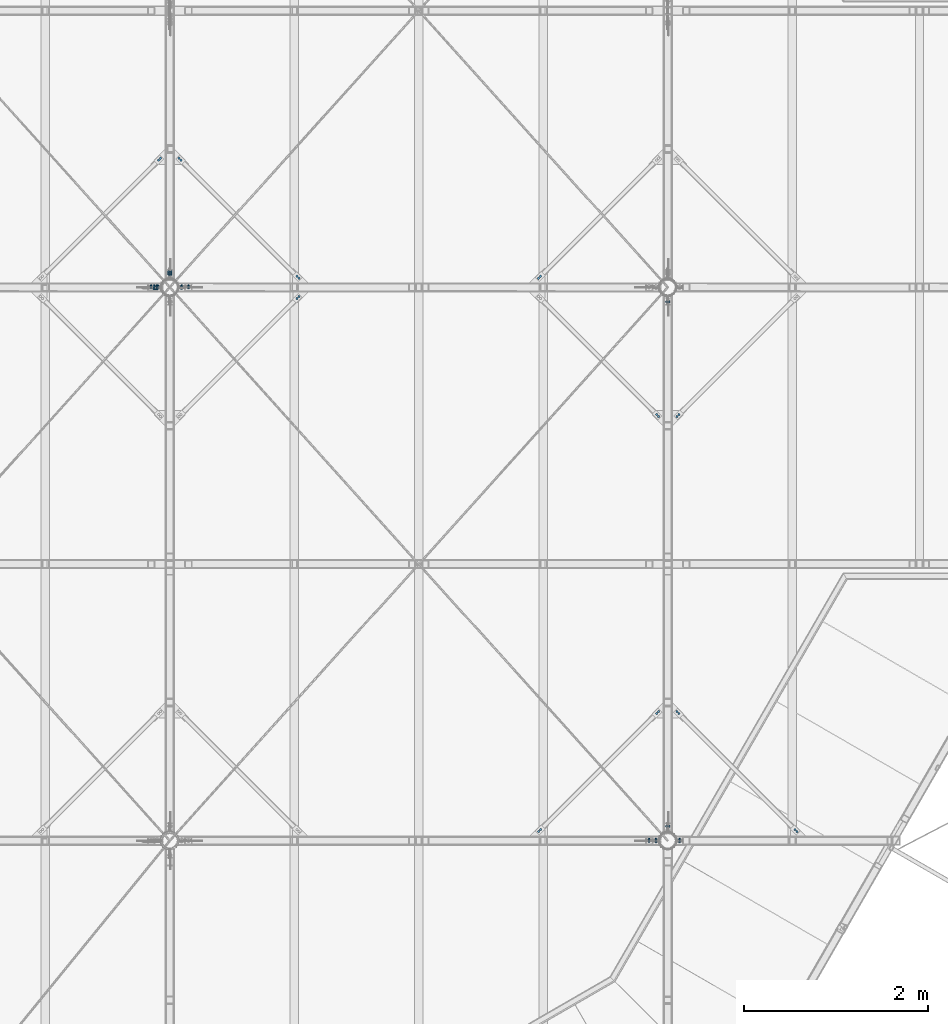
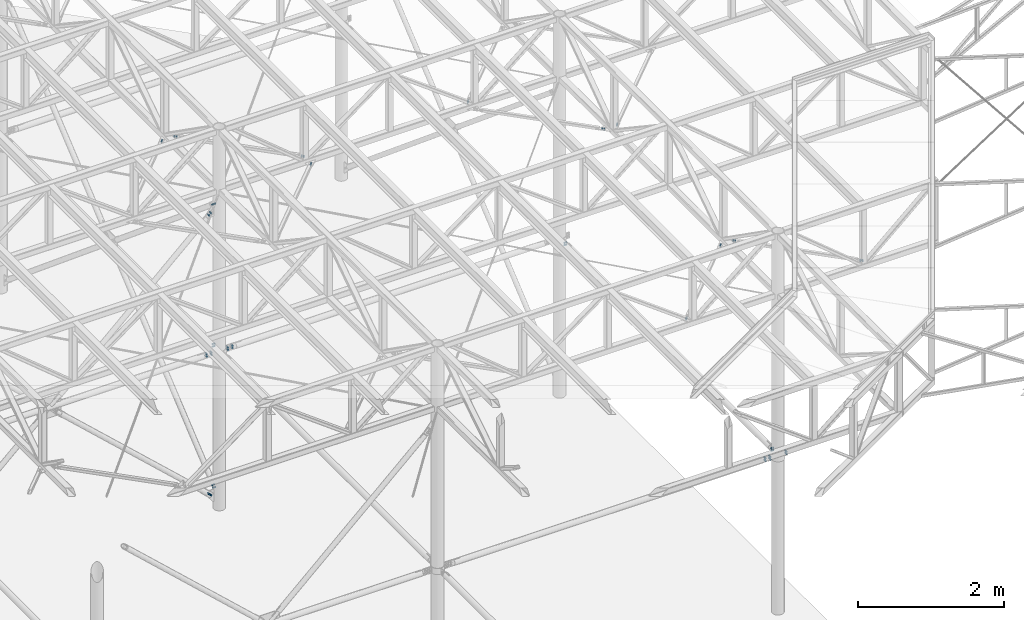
# One storey, part 119 of 132: 30 mechanical fasteners, 21 elements without a shape of their own.
"""IFC2X3 building model written with IfcOpenShell, lengths in millimetres."""

from ifc_helpers import new_model, si_unit, frame, origin_with_axes, origin_2d_with_axis, place, context, subcontext, project, spatial, polyline, circle, outline, extrude, source, transform, mapped, material, type_object, element, aggregate, save


model = new_model("IFC2X3")

# Units and contexts
model_context = context("Model", 3, precision=1e-05, world=origin_with_axes())
body_context = subcontext(model_context, "Body", "Model", "MODEL_VIEW")
ifc_project = project(units=[si_unit("LENGTHUNIT", "METRE", prefix="MILLI"), si_unit("AREAUNIT", "SQUARE_METRE"), si_unit("VOLUMEUNIT", "CUBIC_METRE"), si_unit("MASSUNIT", "GRAM", prefix="KILO"), si_unit("TIMEUNIT", "SECOND"), si_unit("PLANEANGLEUNIT", "RADIAN"), si_unit("SOLIDANGLEUNIT", "STERADIAN"), si_unit("THERMODYNAMICTEMPERATUREUNIT", "DEGREE_CELSIUS"), si_unit("LUMINOUSINTENSITYUNIT", "LUMEN")], contexts=[model_context])

# Site, building, storey
site_placement = place(None, origin_with_axes())
site = spatial("IfcSite", under=ifc_project, at=site_placement, Name="Budowa", CompositionType="ELEMENT")
building_placement = place(site_placement, origin_with_axes())
building = spatial("IfcBuilding", under=site, at=building_placement, Name="Undefined", CompositionType="ELEMENT")
storey_placement = place(building_placement, origin_with_axes())
storey = spatial("IfcBuildingStorey", under=building, at=storey_placement, Name="Undefined", CompositionType="ELEMENT", Elevation=0.0)

# Assembly, mechanical fastener
assembly_1_placement = place(storey_placement, origin_with_axes())
assembly_1 = element("IfcElementAssembly", 1, at=assembly_1_placement, inside=storey, Name="Steel Assembly", AssemblyPlace="NOTDEFINED", PredefinedType="RIGID_FRAME")
ifc_material = material(Name="Undefined")
discrete_accessory_type = type_object("IfcDiscreteAccessoryType", Name="Bolt assembly")
shared_shape_1 = source(origin_with_axes(), body_context, "Body", "SweptSolid", [
    extrude(circle(Radius=9.5, at=origin_2d_with_axis()), frame((0.0, -2.10099750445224, 0.0), z_axis=(0.0, 1.0, 0.0), x_axis=(1.0, 0.0, 0.0)), (0.0, 0.0, 1.0), 8.1),
    extrude(circle(Radius=9.5, at=origin_2d_with_axis()), frame((0.0, -9.9, 0.0), z_axis=(0.0, 1.0, 0.0), x_axis=(1.0, 0.0, 0.0)), (0.0, 0.0, 1.0), 8.0),
    extrude(outline(polyline([(13.85640646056, 0.0), (6.92820323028, 12.0000000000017), (-6.92820323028, 12.0000000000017), (-13.85640646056, 0.0), (-6.92820323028, -12.0000000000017), (6.92820323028, -12.0000000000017), (13.85640646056, 0.0)])), frame((0.0, -23.0, 0.0), z_axis=(0.0, 1.0, 0.0), x_axis=(1.0, 0.0, 0.0)), (0.0, 0.0, 1.0), 10.0),
    extrude(circle(Radius=8.0, at=origin_2d_with_axis()), frame((0.0, -13.0, 0.0), z_axis=(0.0, 1.0, 0.0), x_axis=(1.0, 0.0, 0.0)), (0.0, 0.0, 1.0), 45.0),
    extrude(circle(Radius=15.0, at=origin_2d_with_axis()), frame((0.0, -13.0, 0.0), z_axis=(0.0, 1.0, 0.0), x_axis=(1.0, 0.0, 0.0)), (0.0, 0.0, 1.0), 3.0),
    extrude(circle(Radius=15.0, at=origin_2d_with_axis()), frame((0.0, 5.99900249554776, 0.0), z_axis=(0.0, 1.0, 0.0), x_axis=(1.0, 0.0, 0.0)), (0.0, 0.0, 1.0), 3.0),
    extrude(outline(polyline([(13.85640646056, 0.0), (6.92820323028, 12.0000000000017), (-6.92820323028, 12.0000000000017), (-13.85640646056, 0.0), (-6.92820323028, -12.0000000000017), (6.92820323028, -12.0000000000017), (13.85640646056, 0.0)])), frame((0.0, 8.99900249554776, 0.0), z_axis=(0.0, 1.0, 0.0), x_axis=(1.0, 0.0, 0.0)), (0.0, 0.0, 1.0), 13.0),
])
mechanical_fastener_1_placement = place(assembly_1_placement, frame((14684.3261492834, 11997.9999976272, 12480.2077566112), z_axis=(0.67855182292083, 0.0, -0.734552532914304), x_axis=(-0.734552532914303, 0.0, -0.67855182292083)))
mechanical_fastener_1 = element("IfcMechanicalFastener", 2, at=mechanical_fastener_1_placement, type_object=discrete_accessory_type, material=ifc_material, Name="Bolt assembly", NominalDiameter=16.0, NominalLength=45.0, context=body_context, shape_type="MappedRepresentation", body=[
    mapped(shared_shape_1, transform((0.0, 0.0, 0.0))),
    mapped(shared_shape_1, transform((40.0000000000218, 0.0, -1.81898940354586e-12))),
])

assembly_2_placement = place(storey_placement, origin_with_axes())
assembly_2 = element("IfcElementAssembly", 3, at=assembly_2_placement, inside=storey, Name="Steel Assembly", AssemblyPlace="NOTDEFINED", PredefinedType="RIGID_FRAME")
mechanical_fastener_2_placement = place(assembly_2_placement, frame((14684.3261497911, 11997.9999973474, 7751.7929987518), z_axis=(-0.67855182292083, 0.0, -0.734552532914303), x_axis=(-0.734552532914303, 0.0, 0.67855182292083)))
mechanical_fastener_2 = element("IfcMechanicalFastener", 4, at=mechanical_fastener_2_placement, type_object=discrete_accessory_type, material=ifc_material, Name="Bolt assembly", NominalDiameter=16.0, NominalLength=45.0, context=body_context, shape_type="MappedRepresentation", body=[
    mapped(shared_shape_1, transform((0.0, 0.0, 0.0))),
    mapped(shared_shape_1, transform((40.0000000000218, 0.0, -1.81898940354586e-12))),
])

assembly_3_placement = place(storey_placement, origin_with_axes())
assembly_3 = element("IfcElementAssembly", 5, at=assembly_3_placement, inside=storey, Name="Steel Assembly", AssemblyPlace="NOTDEFINED", PredefinedType="RIGID_FRAME")
shared_shape_2 = source(origin_with_axes(), body_context, "Body", "SweptSolid", [
    extrude(circle(Radius=9.5, at=origin_2d_with_axis()), frame((0.0, -2.1, 0.0), z_axis=(0.0, 1.0, 0.0), x_axis=(1.0, 0.0, 0.0)), (0.0, 0.0, 1.0), 8.1),
    extrude(circle(Radius=9.5, at=origin_2d_with_axis()), frame((0.0, -11.9, 0.0), z_axis=(0.0, 1.0, 0.0), x_axis=(1.0, 0.0, 0.0)), (0.0, 0.0, 1.0), 8.0),
    extrude(outline(polyline([(13.85640646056, 0.0), (6.92820323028, 12.0000000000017), (-6.92820323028, 12.0000000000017), (-13.85640646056, 0.0), (-6.92820323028, -12.0000000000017), (6.92820323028, -12.0000000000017), (13.85640646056, 0.0)])), frame((0.0, -25.0, 0.0), z_axis=(0.0, 1.0, 0.0), x_axis=(1.0, 0.0, 0.0)), (0.0, 0.0, 1.0), 10.0),
    extrude(circle(Radius=8.0, at=origin_2d_with_axis()), frame((0.0, -15.0, 0.0), z_axis=(0.0, 1.0, 0.0), x_axis=(1.0, 0.0, 0.0)), (0.0, 0.0, 1.0), 45.0),
    extrude(circle(Radius=15.0, at=origin_2d_with_axis()), frame((0.0, -15.0, 0.0), z_axis=(0.0, 1.0, 0.0), x_axis=(1.0, 0.0, 0.0)), (0.0, 0.0, 1.0), 3.0),
    extrude(circle(Radius=15.0, at=origin_2d_with_axis()), frame((0.0, 6.0, 0.0), z_axis=(0.0, 1.0, 0.0), x_axis=(1.0, 0.0, 0.0)), (0.0, 0.0, 1.0), 3.0),
    extrude(outline(polyline([(13.85640646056, 0.0), (6.92820323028, 12.0000000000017), (-6.92820323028, 12.0000000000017), (-13.85640646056, 0.0), (-6.92820323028, -12.0000000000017), (6.92820323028, -12.0000000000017), (13.85640646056, 0.0)])), frame((0.0, 9.0, 0.0), z_axis=(0.0, 1.0, 0.0), x_axis=(1.0, 0.0, 0.0)), (0.0, 0.0, 1.0), 13.0),
])
mechanical_fastener_3_placement = place(assembly_3_placement, frame((14684.3261492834, 11997.9999976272, 12480.2077566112), z_axis=(0.67855182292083, 0.0, -0.734552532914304), x_axis=(-0.734552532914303, 0.0, -0.67855182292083)))
mechanical_fastener_3 = element("IfcMechanicalFastener", 6, at=mechanical_fastener_3_placement, type_object=discrete_accessory_type, material=ifc_material, Name="Bolt assembly", NominalDiameter=16.0, NominalLength=45.0, context=body_context, shape_type="MappedRepresentation", body=[
    mapped(shared_shape_2, transform((0.0, 0.0, 0.0))),
    mapped(shared_shape_2, transform((40.0000000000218, 0.0, -1.81898940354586e-12))),
])
aggregate(assembly_3, [mechanical_fastener_3])

assembly_4_placement = place(storey_placement, origin_with_axes())
assembly_4 = element("IfcElementAssembly", 7, at=assembly_4_placement, inside=storey, Name="Steel Assembly", AssemblyPlace="NOTDEFINED", PredefinedType="RIGID_FRAME")
mechanical_fastener_4_placement = place(assembly_4_placement, frame((14684.3261497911, 11997.9999973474, 7751.7929987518), z_axis=(-0.67855182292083, 0.0, -0.734552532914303), x_axis=(-0.734552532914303, 0.0, 0.67855182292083)))
mechanical_fastener_4 = element("IfcMechanicalFastener", 8, at=mechanical_fastener_4_placement, type_object=discrete_accessory_type, material=ifc_material, Name="Bolt assembly", NominalDiameter=16.0, NominalLength=45.0, context=body_context, shape_type="MappedRepresentation", body=[
    mapped(shared_shape_2, transform((0.0, 0.0, 0.0))),
    mapped(shared_shape_2, transform((40.0000000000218, 0.0, -1.81898940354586e-12))),
])
aggregate(assembly_4, [mechanical_fastener_4])

assembly_5_placement = place(storey_placement, origin_with_axes())
assembly_5 = element("IfcElementAssembly", 9, at=assembly_5_placement, inside=storey, Name="Steel Assembly", AssemblyPlace="NOTDEFINED", PredefinedType="RIGID_FRAME")
shared_shape_3 = source(origin_with_axes(), body_context, "Body", "SweptSolid", [
    extrude(circle(Radius=9.0, at=origin_2d_with_axis()), frame((0.0, 0.0999999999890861, 0.0), z_axis=(0.0, 1.0, 0.0), x_axis=(1.0, 0.0, 0.0)), (0.0, 0.0, 1.0), 8.0),
    extrude(circle(Radius=9.0, at=origin_2d_with_axis()), frame((0.0, 11.9000000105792, 0.0), z_axis=(0.0, 1.0, 0.0), x_axis=(1.0, 0.0, 0.0)), (0.0, 0.0, 1.0), 8.1),
    extrude(outline(polyline([(13.85640646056, 0.0), (6.92820323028, 12.0000000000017), (-6.92820323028, 12.0000000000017), (-13.85640646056, 0.0), (-6.92820323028, -12.0000000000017), (6.92820323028, -12.0000000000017), (13.85640646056, 0.0)])), frame((0.0, -13.0, 0.0), z_axis=(0.0, 1.0, 0.0), x_axis=(1.0, 0.0, 0.0)), (0.0, 0.0, 1.0), 10.0),
    extrude(circle(Radius=8.0, at=origin_2d_with_axis()), frame((0.0, -2.99999999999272, 0.0), z_axis=(0.0, 1.0, 0.0), x_axis=(1.0, 0.0, 0.0)), (0.0, 0.0, 1.0), 45.0),
    extrude(circle(Radius=15.0, at=origin_2d_with_axis()), frame((0.0, -2.99999999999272, 0.0), z_axis=(0.0, 1.0, 0.0), x_axis=(1.0, 0.0, 0.0)), (0.0, 0.0, 1.0), 3.0),
    extrude(circle(Radius=15.0, at=origin_2d_with_axis()), frame((0.0, 20.0000000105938, 0.0), z_axis=(0.0, 1.0, 0.0), x_axis=(1.0, 0.0, 0.0)), (0.0, 0.0, 1.0), 3.0),
    extrude(outline(polyline([(13.85640646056, 0.0), (6.92820323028, 12.0000000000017), (-6.92820323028, 12.0000000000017), (-13.85640646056, 0.0), (-6.92820323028, -12.0000000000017), (6.92820323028, -12.0000000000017), (13.85640646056, 0.0)])), frame((0.0, 23.0000000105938, 0.0), z_axis=(0.0, 1.0, 0.0), x_axis=(1.0, 0.0, 0.0)), (0.0, 0.0, 1.0), 13.0),
])
mechanical_fastener_5_placement = place(assembly_5_placement, frame((14953.1367126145, 11990.000000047, 10096.0003779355), z_axis=(-1.0, 0.0, 0.0), x_axis=(0.0, 0.0, 1.0)))
mechanical_fastener_5 = element("IfcMechanicalFastener", 10, at=mechanical_fastener_5_placement, type_object=discrete_accessory_type, material=ifc_material, Name="Bolt assembly", NominalDiameter=16.0, NominalLength=45.0, context=body_context, shape_type="MappedRepresentation", body=[
    mapped(shared_shape_3, transform((0.0, 0.0, 0.0))),
    mapped(shared_shape_3, transform((40.0000000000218, 0.0, -1.81898940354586e-12))),
])

assembly_6_placement = place(storey_placement, origin_with_axes())
assembly_6 = element("IfcElementAssembly", 11, at=assembly_6_placement, inside=storey, Name="Steel Assembly", AssemblyPlace="NOTDEFINED", PredefinedType="RIGID_FRAME")
mechanical_fastener_6_placement = place(assembly_6_placement, frame((20353.1367126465, 5990.00000004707, 10096.0003779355), z_axis=(-1.0, 0.0, 0.0), x_axis=(0.0, 0.0, 1.0)))
mechanical_fastener_6 = element("IfcMechanicalFastener", 12, at=mechanical_fastener_6_placement, type_object=discrete_accessory_type, material=ifc_material, Name="Bolt assembly", NominalDiameter=16.0, NominalLength=45.0, context=body_context, shape_type="MappedRepresentation", body=[
    mapped(shared_shape_3, transform((0.0, 0.0, 0.0))),
    mapped(shared_shape_3, transform((40.0000000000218, 0.0, -1.81898940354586e-12))),
])

assembly_7_placement = place(storey_placement, origin_with_axes())
assembly_7 = element("IfcElementAssembly", 13, at=assembly_7_placement, inside=storey, Name="Steel Assembly", AssemblyPlace="NOTDEFINED", PredefinedType="RIGID_FRAME")
shared_shape_4 = source(origin_with_axes(), body_context, "Body", "SweptSolid", [
    extrude(circle(Radius=9.0, at=origin_2d_with_axis()), frame((0.0, -4.09999999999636, 0.0), z_axis=(0.0, 1.0, 0.0), x_axis=(1.0, 0.0, 0.0)), (0.0, 0.0, 1.0), 8.1),
    extrude(circle(Radius=9.0, at=origin_2d_with_axis()), frame((0.0, -11.9, 0.0), z_axis=(0.0, 1.0, 0.0), x_axis=(1.0, 0.0, 0.0)), (0.0, 0.0, 1.0), 8.0),
    extrude(outline(polyline([(13.85640646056, 0.0), (6.92820323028, 12.0000000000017), (-6.92820323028, 12.0000000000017), (-13.85640646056, 0.0), (-6.92820323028, -12.0000000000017), (6.92820323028, -12.0000000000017), (13.85640646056, 0.0)])), frame((0.0, -25.0, 0.0), z_axis=(0.0, 1.0, 0.0), x_axis=(1.0, 0.0, 0.0)), (0.0, 0.0, 1.0), 10.0),
    extrude(circle(Radius=8.0, at=origin_2d_with_axis()), frame((0.0, -15.0, 0.0), z_axis=(0.0, 1.0, 0.0), x_axis=(1.0, 0.0, 0.0)), (0.0, 0.0, 1.0), 40.0),
    extrude(circle(Radius=15.0, at=origin_2d_with_axis()), frame((0.0, -15.0, 0.0), z_axis=(0.0, 1.0, 0.0), x_axis=(1.0, 0.0, 0.0)), (0.0, 0.0, 1.0), 3.0),
    extrude(circle(Radius=15.0, at=origin_2d_with_axis()), frame((0.0, 4.0, 0.0), z_axis=(0.0, 1.0, 0.0), x_axis=(1.0, 0.0, 0.0)), (0.0, 0.0, 1.0), 3.0),
    extrude(outline(polyline([(13.85640646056, 0.0), (6.92820323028, 12.0000000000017), (-6.92820323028, 12.0000000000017), (-13.85640646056, 0.0), (-6.92820323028, -12.0000000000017), (6.92820323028, -12.0000000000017), (13.85640646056, 0.0)])), frame((0.0, 7.0, 0.0), z_axis=(0.0, 1.0, 0.0), x_axis=(1.0, 0.0, 0.0)), (0.0, 0.0, 1.0), 13.0),
])
mechanical_fastener_7_placement = place(assembly_7_placement, frame((14824.9999999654, 12140.1779415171, 12492.7698566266), z_axis=(0.0, 0.639165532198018, 0.76906919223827), x_axis=(0.0, 0.769069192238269, -0.639165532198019)))
mechanical_fastener_7 = element("IfcMechanicalFastener", 14, at=mechanical_fastener_7_placement, type_object=discrete_accessory_type, material=ifc_material, Name="Bolt assembly", NominalDiameter=16.0, NominalLength=40.0, context=body_context, shape_type="MappedRepresentation", body=[
    mapped(shared_shape_4, transform((0.0, 0.0, 0.0))),
    mapped(shared_shape_4, transform((40.0000000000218, 0.0, -1.81898940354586e-12))),
])
aggregate(assembly_7, [mechanical_fastener_7])

assembly_8_placement = place(storey_placement, origin_with_axes())
assembly_8 = element("IfcElementAssembly", 15, at=assembly_8_placement, inside=storey, Name="Steel Assembly", AssemblyPlace="NOTDEFINED", PredefinedType="RIGID_FRAME")
mechanical_fastener_8_placement = place(assembly_8_placement, frame((14824.9999969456, 12157.907905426, 10116.0003779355), z_axis=(0.0, 0.0, 1.0), x_axis=(0.0, 1.0, 0.0)))
mechanical_fastener_8 = element("IfcMechanicalFastener", 16, at=mechanical_fastener_8_placement, type_object=discrete_accessory_type, material=ifc_material, Name="Bolt assembly", NominalDiameter=16.0, NominalLength=40.0, context=body_context, shape_type="MappedRepresentation", body=[
    mapped(shared_shape_4, transform((0.0, 0.0, -20.0))),
    mapped(shared_shape_4, transform((0.0, 0.0, 20.0))),
])
aggregate(assembly_8, [mechanical_fastener_8])

# Assembly, mechanical fasteners
assembly_9_placement = place(storey_placement, origin_with_axes())
assembly_9 = element("IfcElementAssembly", 17, at=assembly_9_placement, inside=storey, Name="Steel Assembly", AssemblyPlace="NOTDEFINED", PredefinedType="RIGID_FRAME")
mechanical_fastener_9_placement = place(assembly_9_placement, frame((20224.9999972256, 11842.0920947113, 10116.0003779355), z_axis=(0.0, 0.0, -1.0), x_axis=(0.0, -1.0, 0.0)))
mechanical_fastener_9 = element("IfcMechanicalFastener", 18, at=mechanical_fastener_9_placement, type_object=discrete_accessory_type, material=ifc_material, Name="Bolt assembly", NominalDiameter=16.0, NominalLength=40.0, context=body_context, shape_type="MappedRepresentation", body=[
    mapped(shared_shape_4, transform((0.0, 0.0, -20.0))),
    mapped(shared_shape_4, transform((0.0, 0.0, 20.0))),
])
mechanical_fastener_10_placement = place(assembly_9_placement, frame((20224.9999969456, 6157.90790543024, 10116.0003779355), z_axis=(0.0, 0.0, 1.0), x_axis=(0.0, 1.0, 0.0)))
mechanical_fastener_10 = element("IfcMechanicalFastener", 19, at=mechanical_fastener_10_placement, type_object=discrete_accessory_type, material=ifc_material, Name="Bolt assembly", NominalDiameter=16.0, NominalLength=40.0, context=body_context, shape_type="MappedRepresentation", body=[
    mapped(shared_shape_4, transform((0.0, 0.0, -20.0))),
    mapped(shared_shape_4, transform((0.0, 0.0, 20.0))),
])
aggregate(assembly_9, [mechanical_fastener_9, mechanical_fastener_10])

# Assembly, mechanical fastener
assembly_10_placement = place(storey_placement, origin_with_axes())
assembly_10 = element("IfcElementAssembly", 20, at=assembly_10_placement, inside=storey, Name="Steel Assembly", AssemblyPlace="NOTDEFINED", PredefinedType="RIGID_FRAME")
mechanical_fastener_11_placement = place(assembly_10_placement, frame((14824.9999999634, 12140.1779391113, 7739.23081470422), z_axis=(0.0, -0.639165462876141, 0.769069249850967), x_axis=(0.0, 0.769069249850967, 0.639165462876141)))
mechanical_fastener_11 = element("IfcMechanicalFastener", 21, at=mechanical_fastener_11_placement, type_object=discrete_accessory_type, material=ifc_material, Name="Bolt assembly", NominalDiameter=16.0, NominalLength=40.0, context=body_context, shape_type="MappedRepresentation", body=[
    mapped(shared_shape_4, transform((0.0, 0.0, 0.0))),
    mapped(shared_shape_4, transform((40.0000000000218, 0.0, -1.81898940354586e-12))),
])
aggregate(assembly_10, [mechanical_fastener_11])

assembly_11_placement = place(storey_placement, origin_with_axes())
assembly_11 = element("IfcElementAssembly", 22, at=assembly_11_placement, inside=storey, Name="Steel Assembly", AssemblyPlace="NOTDEFINED", PredefinedType="RIGID_FRAME")
mechanical_fastener_12_placement = place(assembly_11_placement, frame((14824.9999999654, 12140.1779415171, 12492.7698566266), z_axis=(0.0, 0.639165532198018, 0.76906919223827), x_axis=(0.0, 0.769069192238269, -0.639165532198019)))
mechanical_fastener_12 = element("IfcMechanicalFastener", 23, at=mechanical_fastener_12_placement, type_object=discrete_accessory_type, material=ifc_material, Name="Bolt assembly", NominalDiameter=16.0, NominalLength=40.0, context=body_context, shape_type="MappedRepresentation", body=[
    mapped(shared_shape_4, transform((0.0, 0.0, 0.0))),
    mapped(shared_shape_4, transform((40.0000000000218, 0.0, -1.81898940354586e-12))),
])
aggregate(assembly_11, [mechanical_fastener_12])

# Mechanical fastener
mechanical_fastener_13_placement = place(assembly_2_placement, frame((14684.3261497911, 11999.9999973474, 7751.79299875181), z_axis=(-0.67855182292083, 0.0, -0.734552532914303), x_axis=(-0.734552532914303, 0.0, 0.67855182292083)))
mechanical_fastener_13 = element("IfcMechanicalFastener", 24, at=mechanical_fastener_13_placement, type_object=discrete_accessory_type, material=ifc_material, Name="Bolt assembly", NominalDiameter=16.0, NominalLength=40.0, context=body_context, shape_type="MappedRepresentation", body=[
    mapped(shared_shape_4, transform((0.0, 0.0, 0.0))),
    mapped(shared_shape_4, transform((40.0000000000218, 0.0, -1.81898940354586e-12))),
])

aggregate(assembly_2, [mechanical_fastener_2, mechanical_fastener_13])

mechanical_fastener_14_placement = place(assembly_1_placement, frame((14684.3261492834, 11999.9999976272, 12480.2077566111), z_axis=(0.67855182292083, 0.0, -0.734552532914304), x_axis=(-0.734552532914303, 0.0, -0.67855182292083)))
mechanical_fastener_14 = element("IfcMechanicalFastener", 25, at=mechanical_fastener_14_placement, type_object=discrete_accessory_type, material=ifc_material, Name="Bolt assembly", NominalDiameter=16.0, NominalLength=40.0, context=body_context, shape_type="MappedRepresentation", body=[
    mapped(shared_shape_4, transform((0.0, 0.0, 0.0))),
    mapped(shared_shape_4, transform((40.0000000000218, 0.0, -1.81898940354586e-12))),
])

aggregate(assembly_1, [mechanical_fastener_1, mechanical_fastener_14])

shared_shape_5 = source(origin_with_axes(), body_context, "Body", "SweptSolid", [
    extrude(circle(Radius=9.0, at=origin_2d_with_axis()), frame((0.0, 0.0999999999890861, 0.0), z_axis=(0.0, 1.0, 0.0), x_axis=(1.0, 0.0, 0.0)), (0.0, 0.0, 1.0), 8.0),
    extrude(circle(Radius=9.0, at=origin_2d_with_axis()), frame((0.0, 7.9000007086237, 0.0), z_axis=(0.0, 1.0, 0.0), x_axis=(1.0, 0.0, 0.0)), (0.0, 0.0, 1.0), 8.1),
    extrude(outline(polyline([(13.85640646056, 0.0), (6.92820323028, 12.0000000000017), (-6.92820323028, 12.0000000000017), (-13.85640646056, 0.0), (-6.92820323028, -12.0000000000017), (6.92820323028, -12.0000000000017), (13.85640646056, 0.0)])), frame((0.0, -13.0, 0.0), z_axis=(0.0, 1.0, 0.0), x_axis=(1.0, 0.0, 0.0)), (0.0, 0.0, 1.0), 10.0),
    extrude(circle(Radius=8.0, at=origin_2d_with_axis()), frame((0.0, -2.99999999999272, 0.0), z_axis=(0.0, 1.0, 0.0), x_axis=(1.0, 0.0, 0.0)), (0.0, 0.0, 1.0), 40.0),
    extrude(circle(Radius=15.0, at=origin_2d_with_axis()), frame((0.0, -2.99999999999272, 0.0), z_axis=(0.0, 1.0, 0.0), x_axis=(1.0, 0.0, 0.0)), (0.0, 0.0, 1.0), 3.0),
    extrude(circle(Radius=15.0, at=origin_2d_with_axis()), frame((0.0, 16.0000007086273, 0.0), z_axis=(0.0, 1.0, 0.0), x_axis=(1.0, 0.0, 0.0)), (0.0, 0.0, 1.0), 3.0),
    extrude(outline(polyline([(13.85640646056, 0.0), (6.92820323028, 12.0000000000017), (-6.92820323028, 12.0000000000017), (-13.85640646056, 0.0), (-6.92820323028, -12.0000000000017), (6.92820323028, -12.0000000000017), (13.85640646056, 0.0)])), frame((0.0, 19.0000007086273, 0.0), z_axis=(0.0, 1.0, 0.0), x_axis=(1.0, 0.0, 0.0)), (0.0, 0.0, 1.0), 13.0),
])
mechanical_fastener_15_placement = place(assembly_5_placement, frame((15028.1366941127, 11993.9999994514, 10096.0003779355), z_axis=(-1.0, 0.0, 0.0), x_axis=(0.0, 0.0, 1.0)))
mechanical_fastener_15 = element("IfcMechanicalFastener", 26, at=mechanical_fastener_15_placement, type_object=discrete_accessory_type, material=ifc_material, Name="Bolt assembly", NominalDiameter=16.0, NominalLength=40.0, context=body_context, shape_type="MappedRepresentation", body=[
    mapped(shared_shape_5, transform((0.0, 0.0, 0.0))),
    mapped(shared_shape_5, transform((40.0000000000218, 0.0, -1.81898940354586e-12))),
])

mechanical_fastener_16_placement = place(assembly_5_placement, frame((14621.863305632, 11993.9999994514, 10096.0003779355), z_axis=(-1.0, 0.0, 0.0), x_axis=(0.0, 0.0, 1.0)))
mechanical_fastener_16 = element("IfcMechanicalFastener", 27, at=mechanical_fastener_16_placement, type_object=discrete_accessory_type, material=ifc_material, Name="Bolt assembly", NominalDiameter=16.0, NominalLength=40.0, context=body_context, shape_type="MappedRepresentation", body=[
    mapped(shared_shape_5, transform((0.0, 0.0, 0.0))),
    mapped(shared_shape_5, transform((40.0000000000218, 0.0, -1.81898940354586e-12))),
])

aggregate(assembly_5, [mechanical_fastener_15, mechanical_fastener_16, mechanical_fastener_5])

mechanical_fastener_17_placement = place(assembly_6_placement, frame((20021.8633056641, 5993.99999945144, 10096.0003779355), z_axis=(-1.0, 0.0, 0.0), x_axis=(0.0, 0.0, 1.0)))
mechanical_fastener_17 = element("IfcMechanicalFastener", 28, at=mechanical_fastener_17_placement, type_object=discrete_accessory_type, material=ifc_material, Name="Bolt assembly", NominalDiameter=16.0, NominalLength=40.0, context=body_context, shape_type="MappedRepresentation", body=[
    mapped(shared_shape_5, transform((0.0, 0.0, 0.0))),
    mapped(shared_shape_5, transform((40.0000000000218, 0.0, -1.81898940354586e-12))),
])

aggregate(assembly_6, [mechanical_fastener_17, mechanical_fastener_6])

# Assembly, mechanical fastener
assembly_12_placement = place(storey_placement, origin_with_axes())
assembly_12 = element("IfcElementAssembly", 29, at=assembly_12_placement, inside=storey, Name="Steel Assembly", AssemblyPlace="NOTDEFINED", PredefinedType="RIGID_FRAME")
shared_shape_6 = source(origin_with_axes(), body_context, "Body", "SweptSolid", [
    extrude(circle(Radius=9.0, at=origin_2d_with_axis()), frame((0.0, 11.9000000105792, 0.0), z_axis=(0.0, 1.0, 0.0), x_axis=(1.0, 0.0, 0.0)), (0.0, 0.0, 1.0), 8.1),
    extrude(circle(Radius=9.0, at=origin_2d_with_axis()), frame((0.0, 0.0999999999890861, 0.0), z_axis=(0.0, 1.0, 0.0), x_axis=(1.0, 0.0, 0.0)), (0.0, 0.0, 1.0), 8.0),
    extrude(outline(polyline([(13.85640646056, 0.0), (6.92820323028, 12.0000000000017), (-6.92820323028, 12.0000000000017), (-13.85640646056, 0.0), (-6.92820323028, -12.0000000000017), (6.92820323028, -12.0000000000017), (13.85640646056, 0.0)])), frame((0.0, -13.0, 0.0), z_axis=(0.0, 1.0, 0.0), x_axis=(1.0, 0.0, 0.0)), (0.0, 0.0, 1.0), 10.0),
    extrude(circle(Radius=8.0, at=origin_2d_with_axis()), frame((0.0, -2.99999999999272, 0.0), z_axis=(0.0, 1.0, 0.0), x_axis=(1.0, 0.0, 0.0)), (0.0, 0.0, 1.0), 45.0),
    extrude(circle(Radius=15.0, at=origin_2d_with_axis()), frame((0.0, -2.99999999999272, 0.0), z_axis=(0.0, 1.0, 0.0), x_axis=(1.0, 0.0, 0.0)), (0.0, 0.0, 1.0), 3.0),
    extrude(circle(Radius=15.0, at=origin_2d_with_axis()), frame((0.0, 20.0000000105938, 0.0), z_axis=(0.0, 1.0, 0.0), x_axis=(1.0, 0.0, 0.0)), (0.0, 0.0, 1.0), 3.0),
    extrude(outline(polyline([(13.85640646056, 0.0), (6.92820323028, 12.0000000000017), (-6.92820323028, 12.0000000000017), (-13.85640646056, 0.0), (-6.92820323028, -12.0000000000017), (6.92820323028, -12.0000000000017), (13.85640646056, 0.0)])), frame((0.0, 23.0000000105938, 0.0), z_axis=(0.0, 1.0, 0.0), x_axis=(1.0, 0.0, 0.0)), (0.0, 0.0, 1.0), 13.0),
])
mechanical_fastener_18_placement = place(assembly_12_placement, frame((14696.863305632, 11989.9999999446, 10096.0003779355), z_axis=(-1.0, 0.0, 0.0), x_axis=(0.0, 0.0, 1.0)))
mechanical_fastener_18 = element("IfcMechanicalFastener", 30, at=mechanical_fastener_18_placement, type_object=discrete_accessory_type, material=ifc_material, Name="Bolt assembly", NominalDiameter=16.0, NominalLength=45.0, context=body_context, shape_type="MappedRepresentation", body=[
    mapped(shared_shape_6, transform((0.0, 0.0, 0.0))),
    mapped(shared_shape_6, transform((40.0000000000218, 0.0, -1.81898940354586e-12))),
])
aggregate(assembly_12, [mechanical_fastener_18])

assembly_13_placement = place(storey_placement, origin_with_axes())
assembly_13 = element("IfcElementAssembly", 31, at=assembly_13_placement, inside=storey, Name="Steel Assembly", AssemblyPlace="NOTDEFINED", PredefinedType="RIGID_FRAME")
mechanical_fastener_19_placement = place(assembly_13_placement, frame((20096.8633056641, 5989.99999994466, 10096.0003779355), z_axis=(-1.0, 0.0, 0.0), x_axis=(0.0, 0.0, 1.0)))
mechanical_fastener_19 = element("IfcMechanicalFastener", 32, at=mechanical_fastener_19_placement, type_object=discrete_accessory_type, material=ifc_material, Name="Bolt assembly", NominalDiameter=16.0, NominalLength=45.0, context=body_context, shape_type="MappedRepresentation", body=[
    mapped(shared_shape_6, transform((0.0, 0.0, 0.0))),
    mapped(shared_shape_6, transform((40.0000000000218, 0.0, -1.81898940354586e-12))),
])
aggregate(assembly_13, [mechanical_fastener_19])

# Assembly, mechanical fasteners
assembly_14_placement = place(storey_placement, origin_with_axes())
assembly_14 = element("IfcElementAssembly", 33, at=assembly_14_placement, inside=storey, Name="Steel Assembly", AssemblyPlace="NOTDEFINED", PredefinedType="RIGID_FRAME")
shared_shape_7 = source(origin_with_axes(), body_context, "Body", "SweptSolid", [
    extrude(circle(Radius=6.5, at=origin_2d_with_axis()), frame((0.0, -3.1, 0.0), z_axis=(0.0, 1.0, 0.0), x_axis=(1.0, 0.0, 0.0)), (0.0, 0.0, 1.0), 6.1),
    extrude(circle(Radius=6.5, at=origin_2d_with_axis()), frame((0.0, -8.9, 0.0), z_axis=(0.0, 1.0, 0.0), x_axis=(1.0, 0.0, 0.0)), (0.0, 0.0, 1.0), 6.0),
    extrude(outline(polyline([(10.39230484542, 0.0), (5.19615242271, 9.00000000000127), (-5.19615242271, 9.00000000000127), (-10.39230484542, 0.0), (-5.19615242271, -9.00000000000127), (5.19615242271, -9.00000000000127), (10.39230484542, 0.0)])), frame((0.0, -19.5, 0.0), z_axis=(0.0, 1.0, 0.0), x_axis=(1.0, 0.0, 0.0)), (0.0, 0.0, 1.0), 7.5),
    extrude(circle(Radius=6.0, at=origin_2d_with_axis()), frame((0.0, -12.0, 0.0), z_axis=(0.0, 1.0, 0.0), x_axis=(1.0, 0.0, 0.0)), (0.0, 0.0, 1.0), 35.0),
    extrude(circle(Radius=12.0, at=origin_2d_with_axis()), frame((0.0, -12.0, 0.0), z_axis=(0.0, 1.0, 0.0), x_axis=(1.0, 0.0, 0.0)), (0.0, 0.0, 1.0), 3.0),
    extrude(circle(Radius=12.0, at=origin_2d_with_axis()), frame((0.0, 3.0, 0.0), z_axis=(0.0, 1.0, 0.0), x_axis=(1.0, 0.0, 0.0)), (0.0, 0.0, 1.0), 3.0),
    extrude(outline(polyline([(10.96965511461, 0.0), (5.484827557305, 9.50000000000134), (-5.484827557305, 9.50000000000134), (-10.96965511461, 0.0), (-5.484827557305, -9.50000000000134), (5.484827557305, -9.50000000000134), (10.96965511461, 0.0)])), frame((0.0, 6.0, 0.0), z_axis=(0.0, 1.0, 0.0), x_axis=(1.0, 0.0, 0.0)), (0.0, 0.0, 1.0), 10.0),
])
mechanical_fastener_20_placement = place(assembly_14_placement, frame((21625.444659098, 6099.35534100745, 12824.0), z_axis=(-0.70710678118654, -0.707106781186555, 0.0), x_axis=(-0.707106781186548, 0.707106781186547, 0.0)))
mechanical_fastener_20 = element("IfcMechanicalFastener", 34, at=mechanical_fastener_20_placement, type_object=discrete_accessory_type, material=ifc_material, Name="Bolt assembly", NominalDiameter=12.0, NominalLength=35.0, context=body_context, shape_type="MappedRepresentation", body=[
    mapped(shared_shape_7, transform((0.0, 0.0, 0.0))),
    mapped(shared_shape_7, transform((29.9999999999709, 0.0, -1.16415321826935e-10))),
])
mechanical_fastener_21_placement = place(assembly_14_placement, frame((20324.3553409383, 7400.44465916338, 12824.0), z_axis=(0.707106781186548, 0.707106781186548, 0.0), x_axis=(0.707106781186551, -0.707106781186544, 0.0)))
mechanical_fastener_21 = element("IfcMechanicalFastener", 35, at=mechanical_fastener_21_placement, type_object=discrete_accessory_type, material=ifc_material, Name="Bolt assembly", NominalDiameter=12.0, NominalLength=35.0, context=body_context, shape_type="MappedRepresentation", body=[
    mapped(shared_shape_7, transform((0.0, 0.0, 0.0))),
    mapped(shared_shape_7, transform((29.9999999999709, 0.0, -1.16415321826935e-10))),
])
aggregate(assembly_14, [mechanical_fastener_20, mechanical_fastener_21])

assembly_15_placement = place(storey_placement, origin_with_axes())
assembly_15 = element("IfcElementAssembly", 36, at=assembly_15_placement, inside=storey, Name="Steel Assembly", AssemblyPlace="NOTDEFINED", PredefinedType="RIGID_FRAME")
mechanical_fastener_22_placement = place(assembly_15_placement, frame((18824.5553408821, 6099.35534098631, 12824.0), z_axis=(-0.707106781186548, 0.707106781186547, 0.0), x_axis=(0.707106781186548, 0.707106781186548, 0.0)))
mechanical_fastener_22 = element("IfcMechanicalFastener", 37, at=mechanical_fastener_22_placement, type_object=discrete_accessory_type, material=ifc_material, Name="Bolt assembly", NominalDiameter=12.0, NominalLength=35.0, context=body_context, shape_type="MappedRepresentation", body=[
    mapped(shared_shape_7, transform((0.0, 0.0, 0.0))),
    mapped(shared_shape_7, transform((29.9999999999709, 0.0, -1.16415321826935e-10))),
])
mechanical_fastener_23_placement = place(assembly_15_placement, frame((20125.6446590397, 7400.44465914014, 12824.0), z_axis=(0.707106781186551, -0.707106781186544, 0.0), x_axis=(-0.70710678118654, -0.707106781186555, 0.0)))
mechanical_fastener_23 = element("IfcMechanicalFastener", 38, at=mechanical_fastener_23_placement, type_object=discrete_accessory_type, material=ifc_material, Name="Bolt assembly", NominalDiameter=12.0, NominalLength=35.0, context=body_context, shape_type="MappedRepresentation", body=[
    mapped(shared_shape_7, transform((0.0, 0.0, 0.0))),
    mapped(shared_shape_7, transform((29.9999999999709, 0.0, -1.16415321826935e-10))),
])
aggregate(assembly_15, [mechanical_fastener_22, mechanical_fastener_23])

# Assembly, mechanical fastener
assembly_16_placement = place(storey_placement, origin_with_axes())
assembly_16 = element("IfcElementAssembly", 39, at=assembly_16_placement, inside=storey, Name="Steel Assembly", AssemblyPlace="NOTDEFINED", PredefinedType="RIGID_FRAME")
mechanical_fastener_24_placement = place(assembly_16_placement, frame((20324.3553409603, 10599.3553410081, 12824.0), z_axis=(-0.707106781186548, 0.707106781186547, 0.0), x_axis=(0.707106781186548, 0.707106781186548, 0.0)))
mechanical_fastener_24 = element("IfcMechanicalFastener", 40, at=mechanical_fastener_24_placement, type_object=discrete_accessory_type, material=ifc_material, Name="Bolt assembly", NominalDiameter=12.0, NominalLength=35.0, context=body_context, shape_type="MappedRepresentation", body=[
    mapped(shared_shape_7, transform((0.0, 0.0, 0.0))),
    mapped(shared_shape_7, transform((29.9999999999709, 0.0, -1.16415321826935e-10))),
])
aggregate(assembly_16, [mechanical_fastener_24])

assembly_17_placement = place(storey_placement, origin_with_axes())
assembly_17 = element("IfcElementAssembly", 41, at=assembly_17_placement, inside=storey, Name="Steel Assembly", AssemblyPlace="NOTDEFINED", PredefinedType="RIGID_FRAME")
mechanical_fastener_25_placement = place(assembly_17_placement, frame((18824.5553408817, 12099.355340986, 12824.0), z_axis=(-0.707106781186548, 0.707106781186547, 0.0), x_axis=(0.707106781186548, 0.707106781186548, 0.0)))
mechanical_fastener_25 = element("IfcMechanicalFastener", 42, at=mechanical_fastener_25_placement, type_object=discrete_accessory_type, material=ifc_material, Name="Bolt assembly", NominalDiameter=12.0, NominalLength=35.0, context=body_context, shape_type="MappedRepresentation", body=[
    mapped(shared_shape_7, transform((0.0, 0.0, 0.0))),
    mapped(shared_shape_7, transform((29.9999999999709, 0.0, -1.16415321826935e-10))),
])
aggregate(assembly_17, [mechanical_fastener_25])

assembly_18_placement = place(storey_placement, origin_with_axes())
assembly_18 = element("IfcElementAssembly", 43, at=assembly_18_placement, inside=storey, Name="Steel Assembly", AssemblyPlace="NOTDEFINED", PredefinedType="RIGID_FRAME")
mechanical_fastener_26_placement = place(assembly_18_placement, frame((20125.6446590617, 10599.3553409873, 12824.0), z_axis=(-0.70710678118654, -0.707106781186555, 0.0), x_axis=(-0.707106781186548, 0.707106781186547, 0.0)))
mechanical_fastener_26 = element("IfcMechanicalFastener", 44, at=mechanical_fastener_26_placement, type_object=discrete_accessory_type, material=ifc_material, Name="Bolt assembly", NominalDiameter=12.0, NominalLength=35.0, context=body_context, shape_type="MappedRepresentation", body=[
    mapped(shared_shape_7, transform((0.0, 0.0, 0.0))),
    mapped(shared_shape_7, transform((29.9999999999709, 0.0, -1.16415321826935e-10))),
])
aggregate(assembly_18, [mechanical_fastener_26])

# Assembly, mechanical fasteners
assembly_19_placement = place(storey_placement, origin_with_axes())
assembly_19 = element("IfcElementAssembly", 45, at=assembly_19_placement, inside=storey, Name="Steel Assembly", AssemblyPlace="NOTDEFINED", PredefinedType="RIGID_FRAME")
mechanical_fastener_27_placement = place(assembly_19_placement, frame((16225.4446590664, 12099.3553410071, 12824.0), z_axis=(-0.70710678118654, -0.707106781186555, 0.0), x_axis=(-0.707106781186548, 0.707106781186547, 0.0)))
mechanical_fastener_27 = element("IfcMechanicalFastener", 46, at=mechanical_fastener_27_placement, type_object=discrete_accessory_type, material=ifc_material, Name="Bolt assembly", NominalDiameter=12.0, NominalLength=35.0, context=body_context, shape_type="MappedRepresentation", body=[
    mapped(shared_shape_7, transform((0.0, 0.0, 0.0))),
    mapped(shared_shape_7, transform((29.9999999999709, 0.0, -1.16415321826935e-10))),
])
mechanical_fastener_28_placement = place(assembly_19_placement, frame((14924.3553409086, 13400.4446591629, 12824.0), z_axis=(0.707106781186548, 0.707106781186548, 0.0), x_axis=(0.707106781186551, -0.707106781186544, 0.0)))
mechanical_fastener_28 = element("IfcMechanicalFastener", 47, at=mechanical_fastener_28_placement, type_object=discrete_accessory_type, material=ifc_material, Name="Bolt assembly", NominalDiameter=12.0, NominalLength=35.0, context=body_context, shape_type="MappedRepresentation", body=[
    mapped(shared_shape_7, transform((0.0, 0.0, 0.0))),
    mapped(shared_shape_7, transform((29.9999999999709, 0.0, -1.16415321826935e-10))),
])
aggregate(assembly_19, [mechanical_fastener_27, mechanical_fastener_28])

# Assembly, mechanical fastener
assembly_20_placement = place(storey_placement, origin_with_axes())
assembly_20 = element("IfcElementAssembly", 48, at=assembly_20_placement, inside=storey, Name="Steel Assembly", AssemblyPlace="NOTDEFINED", PredefinedType="RIGID_FRAME")
mechanical_fastener_29_placement = place(assembly_20_placement, frame((16225.6446590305, 11900.6446591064, 12824.0), z_axis=(0.707106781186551, -0.707106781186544, 0.0), x_axis=(-0.70710678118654, -0.707106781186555, 0.0)))
mechanical_fastener_29 = element("IfcMechanicalFastener", 49, at=mechanical_fastener_29_placement, type_object=discrete_accessory_type, material=ifc_material, Name="Bolt assembly", NominalDiameter=12.0, NominalLength=35.0, context=body_context, shape_type="MappedRepresentation", body=[
    mapped(shared_shape_7, transform((0.0, 0.0, 0.0))),
    mapped(shared_shape_7, transform((29.9999999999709, 0.0, -1.16415321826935e-10))),
])
aggregate(assembly_20, [mechanical_fastener_29])

assembly_21_placement = place(storey_placement, origin_with_axes())
assembly_21 = element("IfcElementAssembly", 50, at=assembly_21_placement, inside=storey, Name="Steel Assembly", AssemblyPlace="NOTDEFINED", PredefinedType="RIGID_FRAME")
mechanical_fastener_30_placement = place(assembly_21_placement, frame((14725.644659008, 13400.4446591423, 12824.0), z_axis=(0.707106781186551, -0.707106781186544, 0.0), x_axis=(-0.70710678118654, -0.707106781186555, 0.0)))
mechanical_fastener_30 = element("IfcMechanicalFastener", 51, at=mechanical_fastener_30_placement, type_object=discrete_accessory_type, material=ifc_material, Name="Bolt assembly", NominalDiameter=12.0, NominalLength=35.0, context=body_context, shape_type="MappedRepresentation", body=[
    mapped(shared_shape_7, transform((0.0, 0.0, 0.0))),
    mapped(shared_shape_7, transform((29.9999999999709, 0.0, -1.16415321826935e-10))),
])
aggregate(assembly_21, [mechanical_fastener_30])

save(model, "model.ifc")
